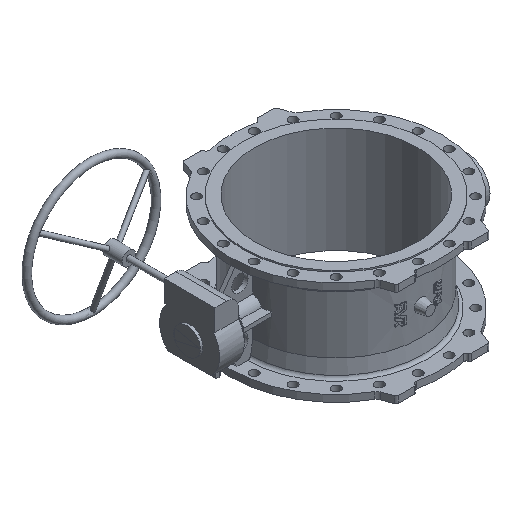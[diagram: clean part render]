
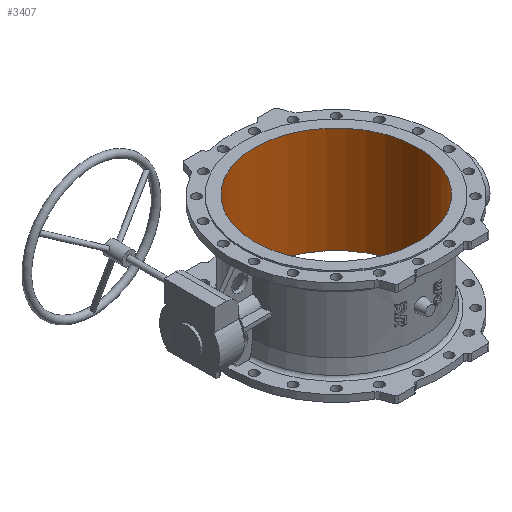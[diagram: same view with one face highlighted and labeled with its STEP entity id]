
A CAD part, isometric view. The second image highlights one B-rep face of the part: STEP entity #3407.
In plain terms, the highlighted cylindrical face has radius 300 mm (diameter 600 mm), a full revolution.
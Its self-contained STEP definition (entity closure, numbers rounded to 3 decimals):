
#1074 = FACE_OUTER_BOUND ( 'NONE', #21289, .T. ) ;
#1082 = FACE_OUTER_BOUND ( 'NONE', #21290, .T. ) ;
#1084 = CYLINDRICAL_SURFACE ( 'NONE', #14316, 300. ) ;
#2076 = ORIENTED_EDGE ( 'NONE', *, *, #13758, .T. ) ;
#2077 = ORIENTED_EDGE ( 'NONE', *, *, #13761, .F. ) ;
#3407 = ADVANCED_FACE ( 'NONE', ( #1074, #1082 ), #1084, .F. ) ;
#7422 = CIRCLE ( 'NONE', #19290, 300. ) ;
#7424 = CIRCLE ( 'NONE', #19292, 300. ) ;
#7867 = VERTEX_POINT ( 'NONE', #16779 ) ;
#7869 = VERTEX_POINT ( 'NONE', #16781 ) ;
#10078 = CARTESIAN_POINT ( 'NONE',  ( 0., 0., -195. ) ) ;
#10079 = DIRECTION ( 'NONE',  ( 0., 0., -1. ) ) ;
#10080 = DIRECTION ( 'NONE',  ( -1., 0., 0. ) ) ;
#10086 = CARTESIAN_POINT ( 'NONE',  ( 0., 0., 195. ) ) ;
#10087 = DIRECTION ( 'NONE',  ( 0., 0., -1. ) ) ;
#10088 = DIRECTION ( 'NONE',  ( -1., 0., 0. ) ) ;
#11098 = CARTESIAN_POINT ( 'NONE',  ( 0., 0., 195. ) ) ;
#11102 = DIRECTION ( 'NONE',  ( 0., 0., -1. ) ) ;
#11103 = DIRECTION ( 'NONE',  ( 1., 0., 0. ) ) ;
#13758 = EDGE_CURVE ( 'NONE', #7867, #7867, #7422, .T. ) ;
#13761 = EDGE_CURVE ( 'NONE', #7869, #7869, #7424, .T. ) ;
#14316 = AXIS2_PLACEMENT_3D ( 'NONE', #11098, #11102, #11103 ) ;
#16779 = CARTESIAN_POINT ( 'NONE',  ( -300., 0., -195. ) ) ;
#16781 = CARTESIAN_POINT ( 'NONE',  ( -300., 0., 195. ) ) ;
#19290 = AXIS2_PLACEMENT_3D ( 'NONE', #10078, #10079, #10080 ) ;
#19292 = AXIS2_PLACEMENT_3D ( 'NONE', #10086, #10087, #10088 ) ;
#21289 = EDGE_LOOP ( 'NONE', ( #2076 ) ) ;
#21290 = EDGE_LOOP ( 'NONE', ( #2077 ) ) ;
